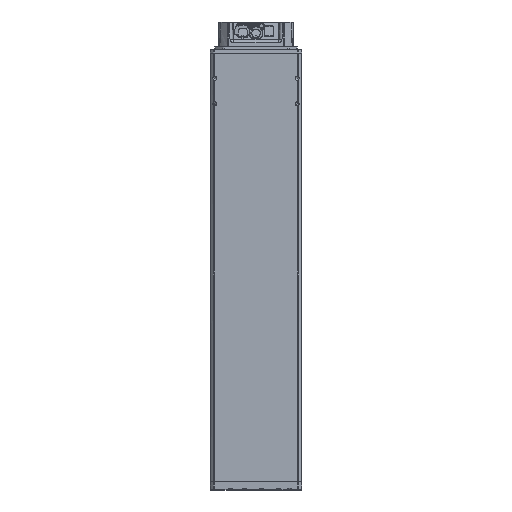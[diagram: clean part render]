
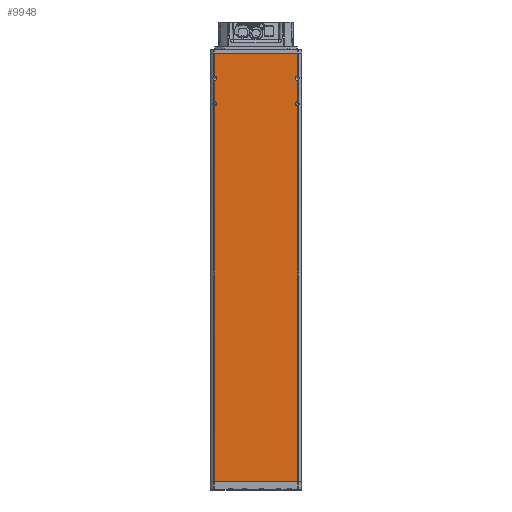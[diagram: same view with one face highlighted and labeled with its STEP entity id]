
A CAD part, left-side view. The second image highlights one B-rep face of the part: STEP entity #9948.
In plain terms, the highlighted planar face has unit normal (-1, 0, 0).
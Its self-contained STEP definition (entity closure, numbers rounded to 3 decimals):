
#8288=DIRECTION('',(0.,0.,-1.));
#8289=VECTOR('',#8288,148.207);
#8290=CARTESIAN_POINT('',(-81.5,779.,74.104));
#8291=LINE('',#8290,#8289);
#8468=CARTESIAN_POINT('',(-81.5,109.,-73.));
#8469=DIRECTION('',(-1.,0.,0.));
#8470=DIRECTION('',(0.,-1.,0.));
#8471=AXIS2_PLACEMENT_3D('',#8468,#8469,#8470);
#8473=CARTESIAN_POINT('',(-81.5,109.,-73.));
#8474=DIRECTION('',(-1.,0.,0.));
#8475=DIRECTION('',(0.,1.,0.));
#8476=AXIS2_PLACEMENT_3D('',#8473,#8474,#8475);
#8478=CARTESIAN_POINT('',(-81.5,109.,73.));
#8479=DIRECTION('',(-1.,0.,0.));
#8480=DIRECTION('',(0.,0.946,0.325));
#8481=AXIS2_PLACEMENT_3D('',#8478,#8479,#8480);
#8483=CARTESIAN_POINT('',(-81.5,109.,73.));
#8484=DIRECTION('',(-1.,0.,0.));
#8485=DIRECTION('',(0.,1.,0.));
#8486=AXIS2_PLACEMENT_3D('',#8483,#8484,#8485);
#8488=CARTESIAN_POINT('',(-81.5,109.,73.));
#8489=DIRECTION('',(-1.,0.,0.));
#8490=DIRECTION('',(0.,-1.,0.));
#8491=AXIS2_PLACEMENT_3D('',#8488,#8489,#8490);
#8493=CARTESIAN_POINT('',(-81.5,64.,73.));
#8494=DIRECTION('',(-1.,0.,0.));
#8495=DIRECTION('',(0.,0.946,0.325));
#8496=AXIS2_PLACEMENT_3D('',#8493,#8494,#8495);
#8498=CARTESIAN_POINT('',(-81.5,64.,73.));
#8499=DIRECTION('',(-1.,0.,0.));
#8500=DIRECTION('',(0.,1.,0.));
#8501=AXIS2_PLACEMENT_3D('',#8498,#8499,#8500);
#8503=CARTESIAN_POINT('',(-81.5,64.,73.));
#8504=DIRECTION('',(-1.,0.,0.));
#8505=DIRECTION('',(0.,-1.,0.));
#8506=AXIS2_PLACEMENT_3D('',#8503,#8504,#8505);
#8508=DIRECTION('',(0.,0.,-1.));
#8509=VECTOR('',#8508,148.207);
#8510=CARTESIAN_POINT('',(-81.5,19.,74.104));
#8511=LINE('',#8510,#8509);
#8512=CARTESIAN_POINT('',(-81.5,64.,-73.));
#8513=DIRECTION('',(-1.,0.,0.));
#8514=DIRECTION('',(0.,-0.946,-0.325));
#8515=AXIS2_PLACEMENT_3D('',#8512,#8513,#8514);
#8517=CARTESIAN_POINT('',(-81.5,64.,-73.));
#8518=DIRECTION('',(-1.,0.,0.));
#8519=DIRECTION('',(0.,-1.,0.));
#8520=AXIS2_PLACEMENT_3D('',#8517,#8518,#8519);
#8522=CARTESIAN_POINT('',(-81.5,64.,-73.));
#8523=DIRECTION('',(-1.,0.,0.));
#8524=DIRECTION('',(0.,1.,0.));
#8525=AXIS2_PLACEMENT_3D('',#8522,#8523,#8524);
#8527=CARTESIAN_POINT('',(-81.5,109.,-73.));
#8528=DIRECTION('',(-1.,0.,0.));
#8529=DIRECTION('',(0.,-0.946,-0.325));
#8530=AXIS2_PLACEMENT_3D('',#8527,#8528,#8529);
#8553=DIRECTION('',(0.,-1.,0.));
#8554=VECTOR('',#8553,38.568);
#8555=CARTESIAN_POINT('',(-81.5,105.784,-74.104));
#8556=LINE('',#8555,#8554);
#8609=DIRECTION('',(0.,-1.,0.));
#8610=VECTOR('',#8609,41.784);
#8611=CARTESIAN_POINT('',(-81.5,60.784,-74.104));
#8612=LINE('',#8611,#8610);
#8706=DIRECTION('',(0.,-1.,0.));
#8707=VECTOR('',#8706,666.784);
#8708=CARTESIAN_POINT('',(-81.5,779.,-74.104));
#8709=LINE('',#8708,#8707);
#8741=DIRECTION('',(0.,1.,0.));
#8742=VECTOR('',#8741,666.784);
#8743=CARTESIAN_POINT('',(-81.5,112.216,74.104));
#8744=LINE('',#8743,#8742);
#8749=CARTESIAN_POINT('',(-81.5,105.784,74.104));
#8779=DIRECTION('',(0.,1.,0.));
#8780=VECTOR('',#8779,38.568);
#8781=CARTESIAN_POINT('',(-81.5,67.216,74.104));
#8782=LINE('',#8781,#8780);
#8826=DIRECTION('',(0.,1.,0.));
#8827=VECTOR('',#8826,41.784);
#8828=CARTESIAN_POINT('',(-81.5,19.,74.104));
#8829=LINE('',#8828,#8827);
#9012=CARTESIAN_POINT('',(-81.5,19.,-74.104));
#9013=VERTEX_POINT('',#9012);
#9014=CARTESIAN_POINT('',(-81.5,19.,74.104));
#9015=VERTEX_POINT('',#9014);
#9076=CARTESIAN_POINT('',(-81.5,779.,74.104));
#9077=VERTEX_POINT('',#9076);
#9078=CARTESIAN_POINT('',(-81.5,779.,-74.104));
#9079=VERTEX_POINT('',#9078);
#9181=CARTESIAN_POINT('',(-81.5,105.6,73.));
#9183=VERTEX_POINT('',#9181);
#9187=CARTESIAN_POINT('',(-81.5,112.4,73.));
#9188=VERTEX_POINT('',#9187);
#9189=CARTESIAN_POINT('',(-81.5,112.216,74.104));
#9190=VERTEX_POINT('',#9189);
#9191=VERTEX_POINT('',#8749);
#9192=CARTESIAN_POINT('',(-81.5,105.6,-73.));
#9193=CARTESIAN_POINT('',(-81.5,112.4,-73.));
#9194=VERTEX_POINT('',#9192);
#9195=VERTEX_POINT('',#9193);
#9196=CARTESIAN_POINT('',(-81.5,112.216,-74.104));
#9197=VERTEX_POINT('',#9196);
#9198=CARTESIAN_POINT('',(-81.5,67.216,74.104));
#9199=VERTEX_POINT('',#9198);
#9200=CARTESIAN_POINT('',(-81.5,67.4,73.));
#9201=VERTEX_POINT('',#9200);
#9202=CARTESIAN_POINT('',(-81.5,60.6,73.));
#9203=VERTEX_POINT('',#9202);
#9204=CARTESIAN_POINT('',(-81.5,60.784,74.104));
#9205=VERTEX_POINT('',#9204);
#9206=CARTESIAN_POINT('',(-81.5,60.784,-74.104));
#9207=VERTEX_POINT('',#9206);
#9208=CARTESIAN_POINT('',(-81.5,60.6,-73.));
#9209=VERTEX_POINT('',#9208);
#9210=CARTESIAN_POINT('',(-81.5,67.4,-73.));
#9211=VERTEX_POINT('',#9210);
#9212=CARTESIAN_POINT('',(-81.5,67.216,-74.104));
#9213=VERTEX_POINT('',#9212);
#9214=CARTESIAN_POINT('',(-81.5,105.784,-74.104));
#9215=VERTEX_POINT('',#9214);
#9906=CARTESIAN_POINT('',(-81.5,19.,-74.104));
#9907=DIRECTION('',(-1.,0.,0.));
#9908=DIRECTION('',(0.,0.,1.));
#9909=AXIS2_PLACEMENT_3D('',#9906,#9907,#9908);
#9910=PLANE('',#9909);
#9912=ORIENTED_EDGE('',*,*,#9911,.T.);
#9914=ORIENTED_EDGE('',*,*,#9913,.T.);
#9916=ORIENTED_EDGE('',*,*,#9915,.F.);
#9917=ORIENTED_EDGE('',*,*,#9736,.F.);
#9919=ORIENTED_EDGE('',*,*,#9918,.F.);
#9920=ORIENTED_EDGE('',*,*,#9880,.T.);
#9921=ORIENTED_EDGE('',*,*,#9898,.T.);
#9922=ORIENTED_EDGE('',*,*,#9887,.T.);
#9924=ORIENTED_EDGE('',*,*,#9923,.F.);
#9926=ORIENTED_EDGE('',*,*,#9925,.T.);
#9928=ORIENTED_EDGE('',*,*,#9927,.T.);
#9930=ORIENTED_EDGE('',*,*,#9929,.T.);
#9932=ORIENTED_EDGE('',*,*,#9931,.F.);
#9933=ORIENTED_EDGE('',*,*,#9289,.T.);
#9935=ORIENTED_EDGE('',*,*,#9934,.F.);
#9937=ORIENTED_EDGE('',*,*,#9936,.T.);
#9939=ORIENTED_EDGE('',*,*,#9938,.T.);
#9941=ORIENTED_EDGE('',*,*,#9940,.T.);
#9943=ORIENTED_EDGE('',*,*,#9942,.F.);
#9945=ORIENTED_EDGE('',*,*,#9944,.T.);
#9946=EDGE_LOOP('',(#9912,#9914,#9916,#9917,#9919,#9920,#9921,#9922,#9924,#9926,
#9928,#9930,#9932,#9933,#9935,#9937,#9939,#9941,#9943,#9945));
#9947=FACE_OUTER_BOUND('',#9946,.F.);
#8472=CIRCLE('',#8471,3.4);
#8477=CIRCLE('',#8476,3.4);
#8482=CIRCLE('',#8481,3.4);
#8487=CIRCLE('',#8486,3.4);
#8492=CIRCLE('',#8491,3.4);
#8497=CIRCLE('',#8496,3.4);
#8502=CIRCLE('',#8501,3.4);
#8507=CIRCLE('',#8506,3.4);
#8516=CIRCLE('',#8515,3.4);
#8521=CIRCLE('',#8520,3.4);
#8526=CIRCLE('',#8525,3.4);
#8531=CIRCLE('',#8530,3.4);
#9289=EDGE_CURVE('',#9015,#9013,#8511,.T.);
#9736=EDGE_CURVE('',#9077,#9079,#8291,.T.);
#9880=EDGE_CURVE('',#9190,#9188,#8482,.T.);
#9887=EDGE_CURVE('',#9183,#9191,#8492,.T.);
#9898=EDGE_CURVE('',#9188,#9183,#8487,.T.);
#9911=EDGE_CURVE('',#9194,#9195,#8472,.T.);
#9913=EDGE_CURVE('',#9195,#9197,#8477,.T.);
#9915=EDGE_CURVE('',#9079,#9197,#8709,.T.);
#9918=EDGE_CURVE('',#9190,#9077,#8744,.T.);
#9923=EDGE_CURVE('',#9199,#9191,#8782,.T.);
#9925=EDGE_CURVE('',#9199,#9201,#8497,.T.);
#9927=EDGE_CURVE('',#9201,#9203,#8502,.T.);
#9929=EDGE_CURVE('',#9203,#9205,#8507,.T.);
#9931=EDGE_CURVE('',#9015,#9205,#8829,.T.);
#9934=EDGE_CURVE('',#9207,#9013,#8612,.T.);
#9936=EDGE_CURVE('',#9207,#9209,#8516,.T.);
#9938=EDGE_CURVE('',#9209,#9211,#8521,.T.);
#9940=EDGE_CURVE('',#9211,#9213,#8526,.T.);
#9942=EDGE_CURVE('',#9215,#9213,#8556,.T.);
#9944=EDGE_CURVE('',#9215,#9194,#8531,.T.);
#9948=ADVANCED_FACE('',(#9947),#9910,.T.);
